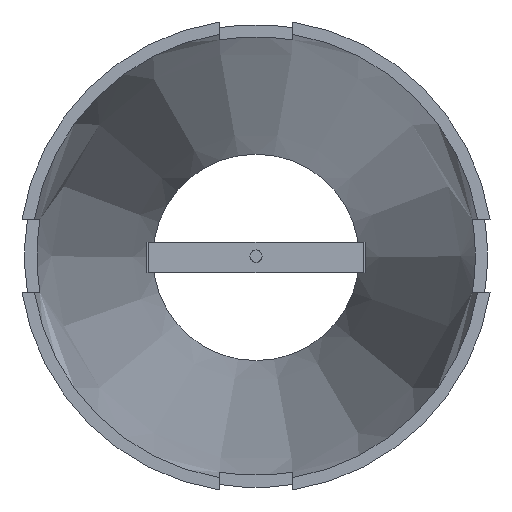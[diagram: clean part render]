
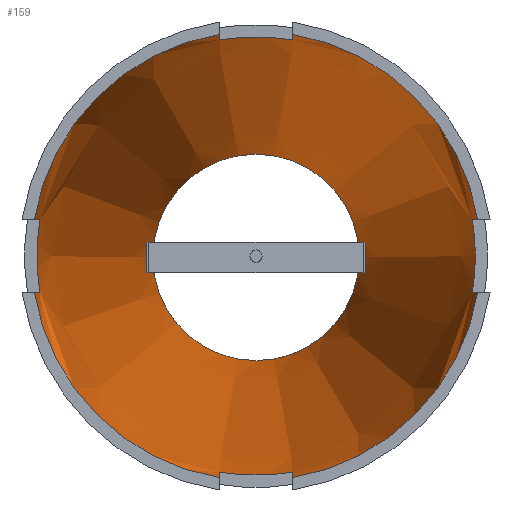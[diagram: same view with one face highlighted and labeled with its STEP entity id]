
A CAD part, top view. The second image highlights one B-rep face of the part: STEP entity #159.
In plain terms, the highlighted conical face has half-angle 8.502 degrees and reference radius 85 mm.
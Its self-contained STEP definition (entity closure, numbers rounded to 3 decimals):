
#159 = ADVANCED_FACE( '', ( #288, #289 ), #290, .F. );
#288 = FACE_OUTER_BOUND( '', #402, .T. );
#289 = FACE_BOUND( '', #403, .T. );
#290 = CONICAL_SURFACE( '', #404, 85., 0.148 );
#402 = EDGE_LOOP( '', ( #617, #618, #619, #620, #621, #622, #623, #624, #625, #626, #627, #628, #629, #630, #631, #632 ) );
#403 = EDGE_LOOP( '', ( #633 ) );
#404 = AXIS2_PLACEMENT_3D( '', #634, #635, #636 );
#617 = ORIENTED_EDGE( '', *, *, #762, .F. );
#618 = ORIENTED_EDGE( '', *, *, #721, .T. );
#619 = ORIENTED_EDGE( '', *, *, #781, .F. );
#620 = ORIENTED_EDGE( '', *, *, #789, .T. );
#621 = ORIENTED_EDGE( '', *, *, #806, .F. );
#622 = ORIENTED_EDGE( '', *, *, #759, .T. );
#623 = ORIENTED_EDGE( '', *, *, #807, .F. );
#624 = ORIENTED_EDGE( '', *, *, #804, .T. );
#625 = ORIENTED_EDGE( '', *, *, #808, .F. );
#626 = ORIENTED_EDGE( '', *, *, #809, .T. );
#627 = ORIENTED_EDGE( '', *, *, #810, .F. );
#628 = ORIENTED_EDGE( '', *, *, #811, .T. );
#629 = ORIENTED_EDGE( '', *, *, #753, .F. );
#630 = ORIENTED_EDGE( '', *, *, #812, .T. );
#631 = ORIENTED_EDGE( '', *, *, #799, .F. );
#632 = ORIENTED_EDGE( '', *, *, #750, .T. );
#633 = ORIENTED_EDGE( '', *, *, #783, .F. );
#634 = CARTESIAN_POINT( '', ( 0., 0., 0. ) );
#635 = DIRECTION( '', ( 0., 0., 1. ) );
#636 = DIRECTION( '', ( 1., 0., 0. ) );
#721 = EDGE_CURVE( '', #832, #830, #833, .T. );
#750 = EDGE_CURVE( '', #880, #882, #884, .T. );
#753 = EDGE_CURVE( '', #886, #888, #889, .T. );
#759 = EDGE_CURVE( '', #897, #895, #898, .T. );
#762 = EDGE_CURVE( '', #832, #882, #901, .T. );
#781 = EDGE_CURVE( '', #928, #830, #930, .T. );
#783 = EDGE_CURVE( '', #932, #932, #933, .T. );
#789 = EDGE_CURVE( '', #928, #939, #941, .T. );
#799 = EDGE_CURVE( '', #880, #953, #954, .T. );
#804 = EDGE_CURVE( '', #957, #959, #961, .T. );
#806 = EDGE_CURVE( '', #897, #939, #963, .T. );
#807 = EDGE_CURVE( '', #957, #895, #964, .T. );
#808 = EDGE_CURVE( '', #965, #959, #966, .T. );
#809 = EDGE_CURVE( '', #965, #967, #968, .T. );
#810 = EDGE_CURVE( '', #969, #967, #970, .T. );
#811 = EDGE_CURVE( '', #969, #888, #971, .T. );
#812 = EDGE_CURVE( '', #886, #953, #972, .T. );
#830 = VERTEX_POINT( '', #990 );
#832 = VERTEX_POINT( '', #993 );
#833 = CIRCLE( '', #994, 180.522 );
#880 = VERTEX_POINT( '', #1070 );
#882 = VERTEX_POINT( '', #1073 );
#884 = CIRCLE( '', #1076, 185.007 );
#886 = VERTEX_POINT( '', #1078 );
#888 = VERTEX_POINT( '', #1081 );
#889 = B_SPLINE_CURVE_WITH_KNOTS( '', 3, ( #1082, #1083, #1084, #1085 ), .UNSPECIFIED., .F., .F., ( 4, 4 ), ( 0.28, 0.311 ), .UNSPECIFIED. );
#895 = VERTEX_POINT( '', #1092 );
#897 = VERTEX_POINT( '', #1095 );
#898 = CIRCLE( '', #1096, 180.522 );
#901 = B_SPLINE_CURVE_WITH_KNOTS( '', 3, ( #1100, #1101, #1102, #1103 ), .UNSPECIFIED., .F., .F., ( 4, 4 ), ( 0.28, 0.311 ), .UNSPECIFIED. );
#928 = VERTEX_POINT( '', #1142 );
#930 = B_SPLINE_CURVE_WITH_KNOTS( '', 3, ( #1145, #1146, #1147, #1148 ), .UNSPECIFIED., .F., .F., ( 4, 4 ), ( 0.276, 0.306 ), .UNSPECIFIED. );
#932 = VERTEX_POINT( '', #1150 );
#933 = CIRCLE( '', #1151, 85. );
#939 = VERTEX_POINT( '', #1159 );
#941 = CIRCLE( '', #1162, 185.007 );
#953 = VERTEX_POINT( '', #1180 );
#954 = B_SPLINE_CURVE_WITH_KNOTS( '', 3, ( #1181, #1182, #1183, #1184 ), .UNSPECIFIED., .F., .F., ( 4, 4 ), ( 0.276, 0.306 ), .UNSPECIFIED. );
#957 = VERTEX_POINT( '', #1188 );
#959 = VERTEX_POINT( '', #1191 );
#961 = CIRCLE( '', #1194, 185.007 );
#963 = B_SPLINE_CURVE_WITH_KNOTS( '', 3, ( #1196, #1197, #1198, #1199 ), .UNSPECIFIED., .F., .F., ( 4, 4 ), ( 0.28, 0.311 ), .UNSPECIFIED. );
#964 = B_SPLINE_CURVE_WITH_KNOTS( '', 3, ( #1200, #1201, #1202, #1203 ), .UNSPECIFIED., .F., .F., ( 4, 4 ), ( 0.276, 0.306 ), .UNSPECIFIED. );
#965 = VERTEX_POINT( '', #1204 );
#966 = B_SPLINE_CURVE_WITH_KNOTS( '', 3, ( #1205, #1206, #1207, #1208 ), .UNSPECIFIED., .F., .F., ( 4, 4 ), ( 0.28, 0.311 ), .UNSPECIFIED. );
#967 = VERTEX_POINT( '', #1209 );
#968 = CIRCLE( '', #1210, 180.522 );
#969 = VERTEX_POINT( '', #1211 );
#970 = B_SPLINE_CURVE_WITH_KNOTS( '', 3, ( #1212, #1213, #1214, #1215 ), .UNSPECIFIED., .F., .F., ( 4, 4 ), ( 0.276, 0.306 ), .UNSPECIFIED. );
#971 = CIRCLE( '', #1216, 185.007 );
#972 = CIRCLE( '', #1217, 180.522 );
#990 = CARTESIAN_POINT( '', ( -30., 178.012, 639. ) );
#993 = CARTESIAN_POINT( '', ( 30., 178.012, 639. ) );
#994 = AXIS2_PLACEMENT_3D( '', #1238, #1239, #1240 );
#1070 = CARTESIAN_POINT( '', ( 182.558, 30., 669. ) );
#1073 = CARTESIAN_POINT( '', ( 30., 182.558, 669. ) );
#1076 = AXIS2_PLACEMENT_3D( '', #1275, #1276, #1277 );
#1078 = CARTESIAN_POINT( '', ( 178.012, -30., 639. ) );
#1081 = CARTESIAN_POINT( '', ( 182.558, -30., 669. ) );
#1082 = CARTESIAN_POINT( '', ( 178.012, -30., 639. ) );
#1083 = CARTESIAN_POINT( '', ( 179.528, -30., 649. ) );
#1084 = CARTESIAN_POINT( '', ( 181.043, -30., 659. ) );
#1085 = CARTESIAN_POINT( '', ( 182.558, -30., 669. ) );
#1092 = CARTESIAN_POINT( '', ( -178.012, -30., 639. ) );
#1095 = CARTESIAN_POINT( '', ( -178.012, 30., 639. ) );
#1096 = AXIS2_PLACEMENT_3D( '', #1284, #1285, #1286 );
#1100 = CARTESIAN_POINT( '', ( 30., 178.012, 639. ) );
#1101 = CARTESIAN_POINT( '', ( 30., 179.528, 649. ) );
#1102 = CARTESIAN_POINT( '', ( 30., 181.043, 659. ) );
#1103 = CARTESIAN_POINT( '', ( 30., 182.558, 669. ) );
#1142 = CARTESIAN_POINT( '', ( -30., 182.558, 669. ) );
#1145 = CARTESIAN_POINT( '', ( -30., 182.558, 669. ) );
#1146 = CARTESIAN_POINT( '', ( -30., 181.043, 659. ) );
#1147 = CARTESIAN_POINT( '', ( -30., 179.528, 649. ) );
#1148 = CARTESIAN_POINT( '', ( -30., 178.012, 639. ) );
#1150 = CARTESIAN_POINT( '', ( 85., 0., 0. ) );
#1151 = AXIS2_PLACEMENT_3D( '', #1301, #1302, #1303 );
#1159 = CARTESIAN_POINT( '', ( -182.558, 30., 669. ) );
#1162 = AXIS2_PLACEMENT_3D( '', #1307, #1308, #1309 );
#1180 = CARTESIAN_POINT( '', ( 178.012, 30., 639. ) );
#1181 = CARTESIAN_POINT( '', ( 182.558, 30., 669. ) );
#1182 = CARTESIAN_POINT( '', ( 181.043, 30., 659. ) );
#1183 = CARTESIAN_POINT( '', ( 179.528, 30., 649. ) );
#1184 = CARTESIAN_POINT( '', ( 178.012, 30., 639. ) );
#1188 = CARTESIAN_POINT( '', ( -182.558, -30., 669. ) );
#1191 = CARTESIAN_POINT( '', ( -30., -182.558, 669. ) );
#1194 = AXIS2_PLACEMENT_3D( '', #1319, #1320, #1321 );
#1196 = CARTESIAN_POINT( '', ( -178.012, 30., 639. ) );
#1197 = CARTESIAN_POINT( '', ( -179.528, 30., 649. ) );
#1198 = CARTESIAN_POINT( '', ( -181.043, 30., 659. ) );
#1199 = CARTESIAN_POINT( '', ( -182.558, 30., 669. ) );
#1200 = CARTESIAN_POINT( '', ( -182.558, -30., 669. ) );
#1201 = CARTESIAN_POINT( '', ( -181.043, -30., 659. ) );
#1202 = CARTESIAN_POINT( '', ( -179.528, -30., 649. ) );
#1203 = CARTESIAN_POINT( '', ( -178.012, -30., 639. ) );
#1204 = CARTESIAN_POINT( '', ( -30., -178.012, 639. ) );
#1205 = CARTESIAN_POINT( '', ( -30., -178.012, 639. ) );
#1206 = CARTESIAN_POINT( '', ( -30., -179.528, 649. ) );
#1207 = CARTESIAN_POINT( '', ( -30., -181.043, 659. ) );
#1208 = CARTESIAN_POINT( '', ( -30., -182.558, 669. ) );
#1209 = CARTESIAN_POINT( '', ( 30., -178.012, 639. ) );
#1210 = AXIS2_PLACEMENT_3D( '', #1322, #1323, #1324 );
#1211 = CARTESIAN_POINT( '', ( 30., -182.558, 669. ) );
#1212 = CARTESIAN_POINT( '', ( 30., -182.558, 669. ) );
#1213 = CARTESIAN_POINT( '', ( 30., -181.043, 659. ) );
#1214 = CARTESIAN_POINT( '', ( 30., -179.528, 649. ) );
#1215 = CARTESIAN_POINT( '', ( 30., -178.012, 639. ) );
#1216 = AXIS2_PLACEMENT_3D( '', #1325, #1326, #1327 );
#1217 = AXIS2_PLACEMENT_3D( '', #1328, #1329, #1330 );
#1238 = CARTESIAN_POINT( '', ( 0., 0., 639. ) );
#1239 = DIRECTION( '', ( 0., 0., 1. ) );
#1240 = DIRECTION( '', ( 1., 0., 0. ) );
#1275 = CARTESIAN_POINT( '', ( 0., 0., 669. ) );
#1276 = DIRECTION( '', ( 0., 0., 1. ) );
#1277 = DIRECTION( '', ( 1., 0., 0. ) );
#1284 = CARTESIAN_POINT( '', ( 0., 0., 639. ) );
#1285 = DIRECTION( '', ( 0., 0., 1. ) );
#1286 = DIRECTION( '', ( 1., 0., 0. ) );
#1301 = CARTESIAN_POINT( '', ( 0., 0., 0. ) );
#1302 = DIRECTION( '', ( 0., 0., 1. ) );
#1303 = DIRECTION( '', ( 1., 0., 0. ) );
#1307 = CARTESIAN_POINT( '', ( 0., 0., 669. ) );
#1308 = DIRECTION( '', ( 0., 0., 1. ) );
#1309 = DIRECTION( '', ( 1., 0., 0. ) );
#1319 = CARTESIAN_POINT( '', ( 0., 0., 669. ) );
#1320 = DIRECTION( '', ( 0., 0., 1. ) );
#1321 = DIRECTION( '', ( 1., 0., 0. ) );
#1322 = CARTESIAN_POINT( '', ( 0., 0., 639. ) );
#1323 = DIRECTION( '', ( 0., 0., 1. ) );
#1324 = DIRECTION( '', ( 1., 0., 0. ) );
#1325 = CARTESIAN_POINT( '', ( 0., 0., 669. ) );
#1326 = DIRECTION( '', ( 0., 0., 1. ) );
#1327 = DIRECTION( '', ( 1., 0., 0. ) );
#1328 = CARTESIAN_POINT( '', ( 0., 0., 639. ) );
#1329 = DIRECTION( '', ( 0., 0., 1. ) );
#1330 = DIRECTION( '', ( 1., 0., 0. ) );
